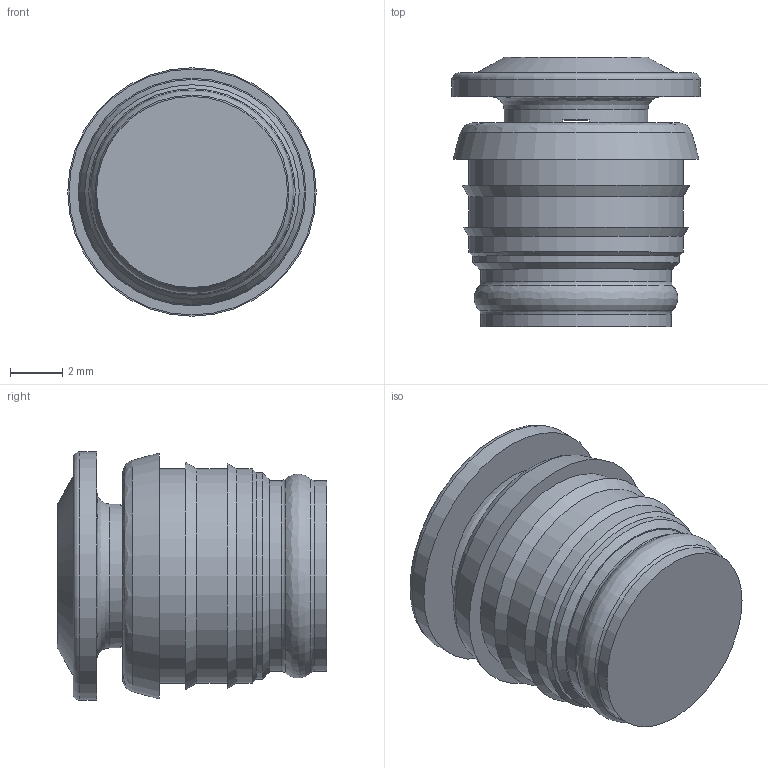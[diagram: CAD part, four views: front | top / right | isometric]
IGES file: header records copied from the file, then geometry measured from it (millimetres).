
Start section: SolidWorks IGES file using analytic representation for surfaces
Global section: file name: K:\Disegni Esecutivi\SERIE 57000\ASSIEMI_57000\57800\57800_iges\5780000001A.IGS; native system: SolidWorks 2011; preprocessor: SolidWorks 2011; author: cad05; date: 120618.090003; units: millimetre
Bounding box: 9.5 x 10.3 x 9.5 mm (x, y, z)
Surface area: 565.4 mm2 (no closed solid volume)
Topology: 0 solids, 0 shells, 104 faces, 854 edges, 818 vertices
Faces by surface type: revolution 55, bspline 49
